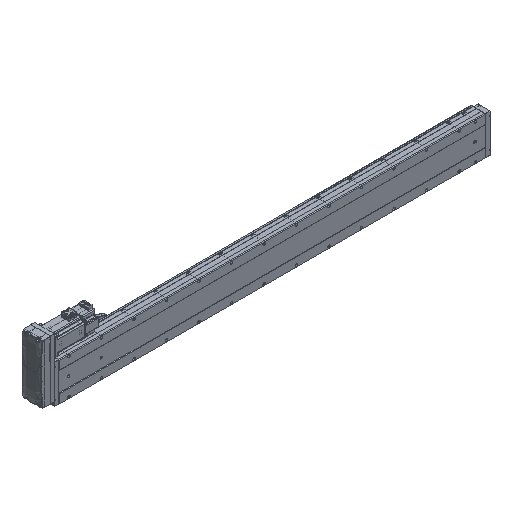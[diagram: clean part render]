
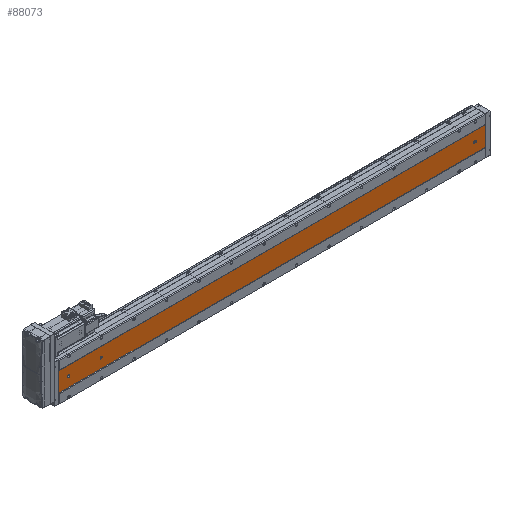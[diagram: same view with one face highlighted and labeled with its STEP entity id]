
A CAD part, isometric view. The second image highlights one B-rep face of the part: STEP entity #88073.
In plain terms, the highlighted planar face has unit normal (0, -1, 0).
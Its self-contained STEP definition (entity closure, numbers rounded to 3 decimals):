
#1999 = VECTOR ( 'NONE', #108595, 1000. ) ;
#2084 = ORIENTED_EDGE ( 'NONE', *, *, #68383, .T. ) ;
#2716 = CARTESIAN_POINT ( 'NONE',  ( -39.892, -52.848, 1184.5 ) ) ;
#3116 = VERTEX_POINT ( 'NONE', #55912 ) ;
#3610 = CARTESIAN_POINT ( 'NONE',  ( -69.892, -52.848, 1311. ) ) ;
#3866 = CARTESIAN_POINT ( 'NONE',  ( -9.892, -52.848, 1311. ) ) ;
#3969 = DIRECTION ( 'NONE',  ( 0., 1., 0. ) ) ;
#4127 = VERTEX_POINT ( 'NONE', #81751 ) ;
#4314 = DIRECTION ( 'NONE',  ( 0., 0., 1. ) ) ;
#4842 = CARTESIAN_POINT ( 'NONE',  ( -39.892, -52.848, 1277.5 ) ) ;
#5736 = AXIS2_PLACEMENT_3D ( 'NONE', #107604, #89034, #54490 ) ;
#8545 = CARTESIAN_POINT ( 'NONE',  ( -69.892, -52.848, 1311. ) ) ;
#12346 = DIRECTION ( 'NONE',  ( 0., 1., 0. ) ) ;
#12355 = DIRECTION ( 'NONE',  ( 0., 0., -1. ) ) ;
#13039 = CARTESIAN_POINT ( 'NONE',  ( -39.892, -52.848, 1281. ) ) ;
#15094 = EDGE_LOOP ( 'NONE', ( #2084, #23297, #61491, #38916, #54817 ) ) ;
#15539 = ORIENTED_EDGE ( 'NONE', *, *, #82433, .F. ) ;
#15973 = CARTESIAN_POINT ( 'NONE',  ( -69.892, -52.848, 1311. ) ) ;
#16548 = EDGE_CURVE ( 'NONE', #21225, #71331, #20306, .T. ) ;
#16649 = DIRECTION ( 'NONE',  ( 0., 0., 1. ) ) ;
#17650 = VECTOR ( 'NONE', #105577, 1000. ) ;
#18324 = VERTEX_POINT ( 'NONE', #111872 ) ;
#18728 = ORIENTED_EDGE ( 'NONE', *, *, #60917, .T. ) ;
#20151 = VECTOR ( 'NONE', #45500, 1000. ) ;
#20306 = CIRCLE ( 'NONE', #75765, 3.5 ) ;
#20594 = AXIS2_PLACEMENT_3D ( 'NONE', #13039, #58392, #39787 ) ;
#21225 = VERTEX_POINT ( 'NONE', #30100 ) ;
#21275 = DIRECTION ( 'NONE',  ( 0., 0., 1. ) ) ;
#23297 = ORIENTED_EDGE ( 'NONE', *, *, #105375, .T. ) ;
#23715 = CARTESIAN_POINT ( 'NONE',  ( -39.892, -52.848, 1181. ) ) ;
#24818 = VERTEX_POINT ( 'NONE', #52655 ) ;
#25636 = LINE ( 'NONE', #38799, #1999 ) ;
#28779 = LINE ( 'NONE', #97906, #17650 ) ;
#29616 = LINE ( 'NONE', #3866, #55857 ) ;
#29726 = ORIENTED_EDGE ( 'NONE', *, *, #39665, .T. ) ;
#30100 = CARTESIAN_POINT ( 'NONE',  ( -39.892, -52.848, 26.5 ) ) ;
#30125 = AXIS2_PLACEMENT_3D ( 'NONE', #84476, #12346, #21275 ) ;
#31203 = EDGE_CURVE ( 'NONE', #71671, #98692, #83149, .T. ) ;
#34925 = CARTESIAN_POINT ( 'NONE',  ( -39.892, -52.848, 32. ) ) ;
#34927 = CIRCLE ( 'NONE', #51940, 3.5 ) ;
#37367 = DIRECTION ( 'NONE',  ( 0., 1., 0. ) ) ;
#37578 = DIRECTION ( 'NONE',  ( 0., 0., 1. ) ) ;
#38247 = LINE ( 'NONE', #72259, #20151 ) ;
#38799 = CARTESIAN_POINT ( 'NONE',  ( -36.392, -52.848, 1311. ) ) ;
#38916 = ORIENTED_EDGE ( 'NONE', *, *, #67027, .T. ) ;
#39665 = EDGE_CURVE ( 'NONE', #56354, #4127, #28779, .T. ) ;
#39787 = DIRECTION ( 'NONE',  ( 0., 0., 1. ) ) ;
#40023 = DIRECTION ( 'NONE',  ( 0., 1., 0. ) ) ;
#41850 = CARTESIAN_POINT ( 'NONE',  ( -43.392, -52.848, 32. ) ) ;
#42827 = AXIS2_PLACEMENT_3D ( 'NONE', #66396, #40023, #74933 ) ;
#44814 = EDGE_LOOP ( 'NONE', ( #82962, #18728 ) ) ;
#45500 = DIRECTION ( 'NONE',  ( 0., 0., 1. ) ) ;
#48511 = CARTESIAN_POINT ( 'NONE',  ( -39.892, -52.848, 30. ) ) ;
#51940 = AXIS2_PLACEMENT_3D ( 'NONE', #23715, #103493, #16649 ) ;
#52421 = AXIS2_PLACEMENT_3D ( 'NONE', #55600, #37367, #100178 ) ;
#52485 = CIRCLE ( 'NONE', #52421, 3.5 ) ;
#52655 = CARTESIAN_POINT ( 'NONE',  ( -9.892, -52.848, 1311. ) ) ;
#54490 = DIRECTION ( 'NONE',  ( 0., 0., 1. ) ) ;
#54817 = ORIENTED_EDGE ( 'NONE', *, *, #16548, .T. ) ;
#55600 = CARTESIAN_POINT ( 'NONE',  ( -39.892, -52.848, 1181. ) ) ;
#55857 = VECTOR ( 'NONE', #12355, 1000. ) ;
#55912 = CARTESIAN_POINT ( 'NONE',  ( -36.392, -52.848, 30. ) ) ;
#56354 = VERTEX_POINT ( 'NONE', #109599 ) ;
#56483 = VECTOR ( 'NONE', #62056, 1000. ) ;
#57061 = EDGE_LOOP ( 'NONE', ( #97841, #73165 ) ) ;
#57770 = VERTEX_POINT ( 'NONE', #41850 ) ;
#58392 = DIRECTION ( 'NONE',  ( 0., 1., 0. ) ) ;
#58511 = EDGE_CURVE ( 'NONE', #97922, #56354, #97937, .T. ) ;
#58655 = VERTEX_POINT ( 'NONE', #2716 ) ;
#60917 = EDGE_CURVE ( 'NONE', #58655, #18324, #34927, .T. ) ;
#61283 = CARTESIAN_POINT ( 'NONE',  ( -36.392, -52.848, 32. ) ) ;
#61491 = ORIENTED_EDGE ( 'NONE', *, *, #96526, .T. ) ;
#62056 = DIRECTION ( 'NONE',  ( 1., 0., 0. ) ) ;
#65949 = EDGE_CURVE ( 'NONE', #98692, #71671, #69040, .T. ) ;
#66396 = CARTESIAN_POINT ( 'NONE',  ( -39.892, -52.848, 30. ) ) ;
#67007 = CIRCLE ( 'NONE', #87453, 3.5 ) ;
#67027 = EDGE_CURVE ( 'NONE', #3116, #21225, #71606, .T. ) ;
#68383 = EDGE_CURVE ( 'NONE', #71331, #57770, #38247, .T. ) ;
#69040 = CIRCLE ( 'NONE', #30125, 3.5 ) ;
#71331 = VERTEX_POINT ( 'NONE', #96780 ) ;
#71606 = CIRCLE ( 'NONE', #42827, 3.5 ) ;
#71671 = VERTEX_POINT ( 'NONE', #91249 ) ;
#71737 = DIRECTION ( 'NONE',  ( 0., 1., 0. ) ) ;
#72259 = CARTESIAN_POINT ( 'NONE',  ( -43.392, -52.848, 1311. ) ) ;
#73165 = ORIENTED_EDGE ( 'NONE', *, *, #31203, .T. ) ;
#74933 = DIRECTION ( 'NONE',  ( 0., 0., 1. ) ) ;
#75765 = AXIS2_PLACEMENT_3D ( 'NONE', #48511, #3969, #4314 ) ;
#80853 = FACE_BOUND ( 'NONE', #44814, .T. ) ;
#81670 = EDGE_LOOP ( 'NONE', ( #29726, #15539, #108783, #108266 ) ) ;
#81751 = CARTESIAN_POINT ( 'NONE',  ( -9.892, -52.848, 0. ) ) ;
#82433 = EDGE_CURVE ( 'NONE', #24818, #4127, #29616, .T. ) ;
#82615 = VECTOR ( 'NONE', #113267, 1000. ) ;
#82962 = ORIENTED_EDGE ( 'NONE', *, *, #114074, .T. ) ;
#83149 = CIRCLE ( 'NONE', #20594, 3.5 ) ;
#84476 = CARTESIAN_POINT ( 'NONE',  ( -39.892, -52.848, 1281. ) ) ;
#85119 = FACE_OUTER_BOUND ( 'NONE', #81670, .T. ) ;
#87453 = AXIS2_PLACEMENT_3D ( 'NONE', #34925, #71737, #37578 ) ;
#88073 = ADVANCED_FACE ( 'NONE', ( #93472, #80853, #111439, #85119 ), #97250, .F. ) ;
#89034 = DIRECTION ( 'NONE',  ( 0., 1., 0. ) ) ;
#91249 = CARTESIAN_POINT ( 'NONE',  ( -39.892, -52.848, 1284.5 ) ) ;
#93446 = EDGE_CURVE ( 'NONE', #97922, #24818, #114749, .T. ) ;
#93472 = FACE_BOUND ( 'NONE', #15094, .T. ) ;
#96526 = EDGE_CURVE ( 'NONE', #98230, #3116, #25636, .T. ) ;
#96780 = CARTESIAN_POINT ( 'NONE',  ( -43.392, -52.848, 30. ) ) ;
#97250 = PLANE ( 'NONE',  #5736 ) ;
#97841 = ORIENTED_EDGE ( 'NONE', *, *, #65949, .T. ) ;
#97906 = CARTESIAN_POINT ( 'NONE',  ( -69.892, -52.848, 0. ) ) ;
#97922 = VERTEX_POINT ( 'NONE', #3610 ) ;
#97937 = LINE ( 'NONE', #15973, #82615 ) ;
#98230 = VERTEX_POINT ( 'NONE', #61283 ) ;
#98692 = VERTEX_POINT ( 'NONE', #4842 ) ;
#100178 = DIRECTION ( 'NONE',  ( 0., 0., 1. ) ) ;
#103493 = DIRECTION ( 'NONE',  ( 0., 1., 0. ) ) ;
#105375 = EDGE_CURVE ( 'NONE', #57770, #98230, #67007, .T. ) ;
#105577 = DIRECTION ( 'NONE',  ( 1., 0., 0. ) ) ;
#107604 = CARTESIAN_POINT ( 'NONE',  ( -69.892, -52.848, 1311. ) ) ;
#108266 = ORIENTED_EDGE ( 'NONE', *, *, #58511, .T. ) ;
#108595 = DIRECTION ( 'NONE',  ( 0., 0., -1. ) ) ;
#108783 = ORIENTED_EDGE ( 'NONE', *, *, #93446, .F. ) ;
#109599 = CARTESIAN_POINT ( 'NONE',  ( -69.892, -52.848, 0. ) ) ;
#111439 = FACE_BOUND ( 'NONE', #57061, .T. ) ;
#111872 = CARTESIAN_POINT ( 'NONE',  ( -39.892, -52.848, 1177.5 ) ) ;
#113267 = DIRECTION ( 'NONE',  ( 0., 0., -1. ) ) ;
#114074 = EDGE_CURVE ( 'NONE', #18324, #58655, #52485, .T. ) ;
#114749 = LINE ( 'NONE', #8545, #56483 ) ;
